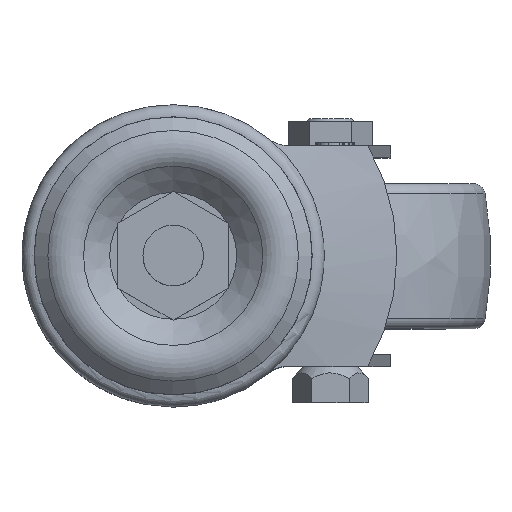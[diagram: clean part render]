
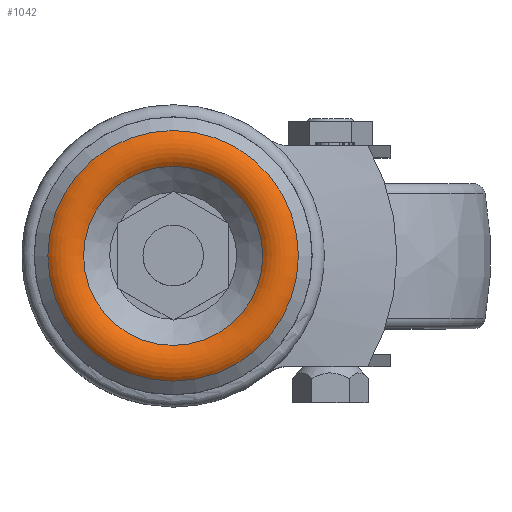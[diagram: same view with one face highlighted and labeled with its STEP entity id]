
A CAD part, top view. The second image highlights one B-rep face of the part: STEP entity #1042.
In plain terms, the highlighted toroidal (fillet/blend) face has major radius 17.75 mm and minor radius 4.5 mm.
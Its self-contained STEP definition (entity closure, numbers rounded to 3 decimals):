
#138=TOROIDAL_SURFACE('',#7463,17.75,4.5);
#748=FACE_BOUND('',#2007,.T.);
#749=FACE_BOUND('',#2008,.T.);
#1042=ADVANCED_FACE('',(#748,#749),#138,.T.);
#2007=EDGE_LOOP('',(#3442));
#2008=EDGE_LOOP('',(#3443));
#2541=CIRCLE('',#7460,14.816);
#2542=CIRCLE('',#7462,20.718);
#3442=ORIENTED_EDGE('',*,*,#6013,.T.);
#3443=ORIENTED_EDGE('',*,*,#6012,.F.);
#5166=VERTEX_POINT('',#14319);
#5167=VERTEX_POINT('',#14322);
#6012=EDGE_CURVE('',#5166,#5166,#2541,.T.);
#6013=EDGE_CURVE('',#5167,#5167,#2542,.T.);
#7460=AXIS2_PLACEMENT_3D('',#14318,#8477,#8478);
#7462=AXIS2_PLACEMENT_3D('',#14321,#8481,#8482);
#7463=AXIS2_PLACEMENT_3D('',#14323,#8483,#8484);
#8477=DIRECTION('',(0.,0.,1.));
#8478=DIRECTION('',(0.,-1.,0.));
#8481=DIRECTION('',(0.,0.,1.));
#8482=DIRECTION('',(0.,-1.,0.));
#8483=DIRECTION('',(0.,0.,1.));
#8484=DIRECTION('',(0.,-1.,0.));
#14318=CARTESIAN_POINT('',(0.,0.,-30.288));
#14319=CARTESIAN_POINT('',(0.,-14.816,-30.288));
#14321=CARTESIAN_POINT('',(0.,0.,-30.318));
#14322=CARTESIAN_POINT('',(0.,-20.718,-30.318));
#14323=CARTESIAN_POINT('',(0.,0.,-33.7));
